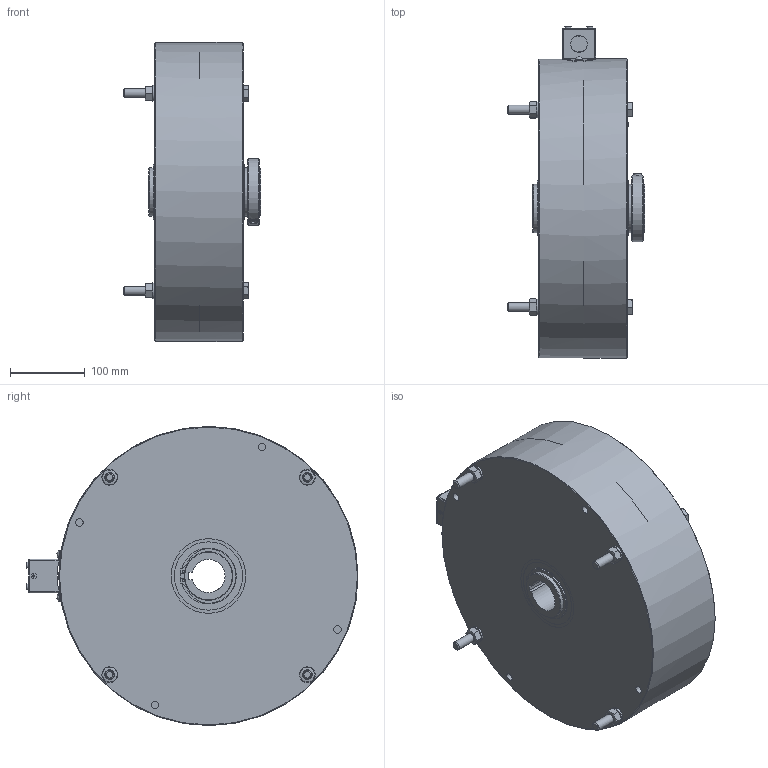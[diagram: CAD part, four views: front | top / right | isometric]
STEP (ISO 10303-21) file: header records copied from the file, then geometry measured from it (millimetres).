
FILE_DESCRIPTION((''),'2;1');
FILE_NAME('J:\WIP\Magpowr WEB\3D (Models)\Magnetic Particle Clutches and Brakes\Global Brakes\GBF90.stp','2010-12-02T12:57:32',('lzuniga'),(''),'Autodesk Inventor 2010','Autodesk Inventor 2010','');
FILE_SCHEMA(('AUTOMOTIVE_DESIGN { 1 0 10303 214 1 1 1 1 }'));
Length unit declared in the file: inch
Products named in the file (13): GBF90 Assy; Right Stator, Left Stator, & Rotor; Junction Box & Junction Box Cover Assy; Junction Box MAGPOWR 600B347; Junction Box Cover; 8-32 x 1_4 LG; M12 X 1.75 X 160mm; M12 - Lock Washer; M12 X 1.75; Collar 714A1-12; M10 X 1.5 X 20 mm FIFE 90252-004; #12 X 0.5 LG MAGPOWR 29A90-1; External Snap Ring MAGPOWR 29A7-255
Assembly tree (25 placements, depth 3):
  GBF90 Assy
    Right Stator, Left Stator, & Rotor
    Junction Box & Junction Box Cover Assy
      Junction Box MAGPOWR 600B347
      Junction Box Cover
      8-32 x 1_4 LG  x2
    M12 X 1.75 X 160mm  x4
    M12 - Lock Washer  x4
    M12 X 1.75  x4
    Collar 714A1-12
    M10 X 1.5 X 20 mm FIFE 90252-004  x2
    #12 X 0.5 LG MAGPOWR 29A90-1  x2
    External Snap Ring MAGPOWR 29A7-255  x2
Bounding box: 183.37 x 444.12 x 400.05 mm (x, y, z)
Volume: 14770937.9 mm3; surface area: 543088.9 mm2
Topology: 24 solids, 25 shells, 406 faces, 951 edges, 621 vertices
Faces by surface type: plane 230, bspline 81, cylinder 72, cone 18, sphere 3, torus 2
Full cylindrical faces by diameter (mm): 2.705 x1, 3.175 x2, 4.166 x2, 4.851 x2, 5.385 x1, 7.493 x2, 7.925 x1, 8.179 x2, 9.98 x2, 10.363 x2, 11.98 x4, 12 x4, 22.225 x2, 61.44 x2, 64.991 x2, 65 x1, 74.422 x2, 88.9 x1, 91.44 x2, 100 x2, 400.049 x1, 400.05 x1
Entity records: 8710 total; most frequent: CARTESIAN_POINT 2515, DIRECTION 1156, ORIENTED_EDGE 1066, EDGE_CURVE 533, AXIS2_PLACEMENT_3D 422, EDGE_LOOP 402, VERTEX_POINT 389, VECTOR 312
